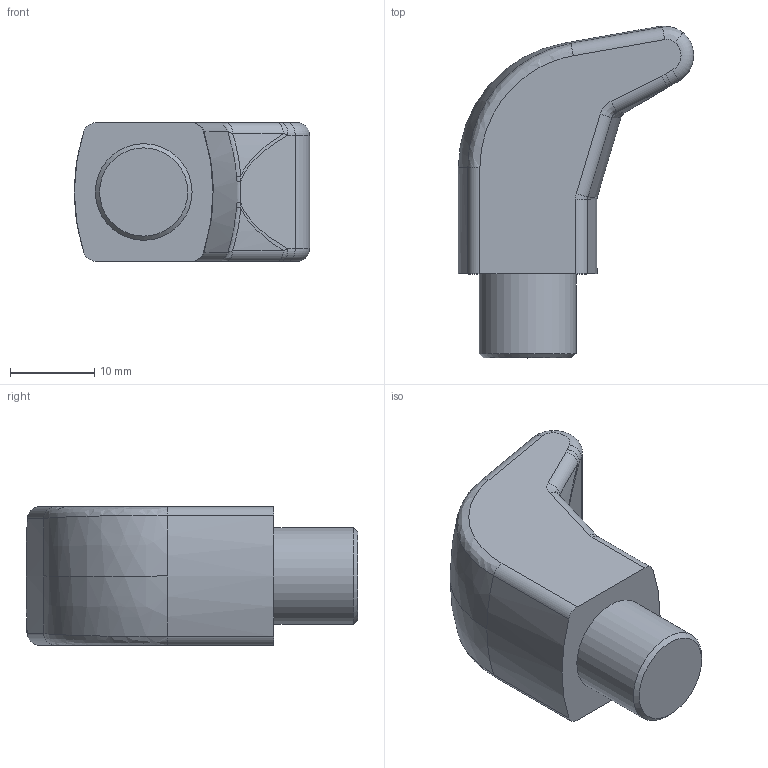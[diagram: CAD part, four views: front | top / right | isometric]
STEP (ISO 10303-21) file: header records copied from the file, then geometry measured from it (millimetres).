
FILE_DESCRIPTION(/* description */ (''),/* implementation_level */ '2;1');
FILE_NAME(/* name */ '\\NAS\db20\C-M57-1\DR_C-M57-1.stp',/* time_stamp */ '2019-02-21T14:30:31+09:00',/* author */ ('user'),/* organization */ (''),/* preprocessor_version */ 'ST-DEVELOPER v15.6',/* originating_system */ 'Autodesk Inventor 2015',/* authorisation */ '');
FILE_SCHEMA (('AUTOMOTIVE_DESIGN { 1 0 10303 214 3 1 1 }'));
Length unit declared in the file: millimetre
Products named in the file (1): DR_C-M57-1
Bounding box: 28 x 39.5 x 16.5 mm (x, y, z)
Volume: 9070.7 mm3; surface area: 2788.1 mm2
Topology: 1 solids, 1 shells, 50 faces, 115 edges, 66 vertices
Faces by surface type: bspline 26, cylinder 16, plane 5, torus 2, cone 1
Full cylindrical faces by diameter (mm): 11.5 x1
Entity records: 1799 total; most frequent: CARTESIAN_POINT 800, ORIENTED_EDGE 222, DIRECTION 165, EDGE_CURVE 111, AXIS2_PLACEMENT_3D 69, VERTEX_POINT 66, EDGE_LOOP 53, FACE_OUTER_BOUND 50
